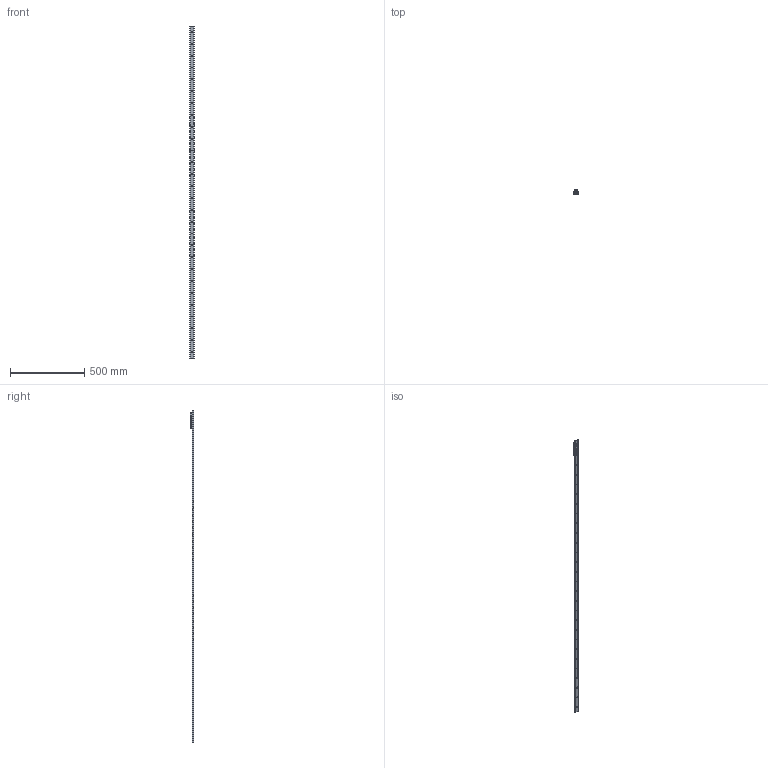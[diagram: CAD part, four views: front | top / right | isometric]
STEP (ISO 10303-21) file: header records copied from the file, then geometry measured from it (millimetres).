
FILE_DESCRIPTION( ( 'STEP AP214' ), '1' );
FILE_NAME( 'p:/temp/worker_24/temp/exporttempdir_5160_152_BExde/format_2/TGV-02240_1_RV28G-3.stp', '2020-11-20T16:40:28', ( 'License CC BY-ND 4.0' ), ( 'CADENAS' ), ' ', 'PARTsolutions', ' ' );
FILE_SCHEMA( ( 'AUTOMOTIVE_DESIGN { 1 0 10303 214 1 1 1 1 }' ) );
Length unit declared in the file: millimetre
Products named in the file (6): TGV-02240/1/RV28G-3; _TGV28-2240-(3-1); _RV28G-3-slider; _RGNV28R; _RGAV28R; _WR28G-01
Assembly tree (7 placements, depth 2):
  TGV-02240/1/RV28G-3
    _TGV28-2240-(3-1)
    _RV28G-3-slider
    _RGNV28R  x2
    _RGAV28R
    _WR28G-01  x2
Bounding box: 28 x 24 x 2240 mm (x, y, z)
Volume: 359902 mm3; surface area: 230779.4 mm2
Topology: 7 solids, 7 shells, 1068 faces, 2785 edges, 1813 vertices
Faces by surface type: plane 657, cylinder 308, cone 68, bspline 26, torus 9
Full cylindrical faces by diameter (mm): 1.27 x4, 2 x2, 2.5 x6, 4 x4, 4.134 x4, 4.2 x3, 5 x3, 5.5 x3, 5.75 x28, 7 x5, 7.5 x1, 8 x6, 10.8 x3, 17 x3, 20.75 x6
Entity records: 26011 total; most frequent: CARTESIAN_POINT 4099, DIRECTION 3480, ORIENTED_EDGE 3162, EDGE_CURVE 1581, AXIS2_PLACEMENT_3D 1345, VERTEX_POINT 1113, EDGE_LOOP 959, LINE 790
